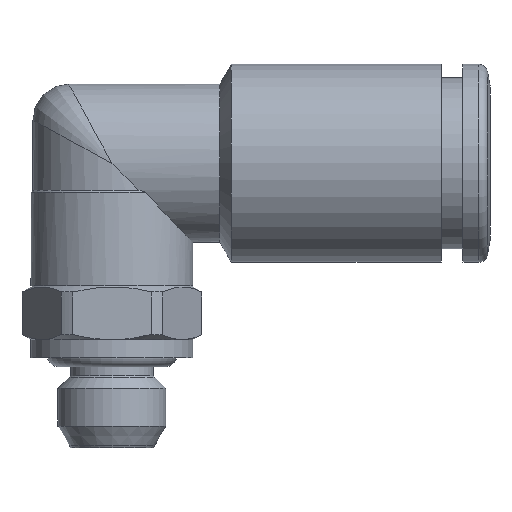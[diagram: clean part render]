
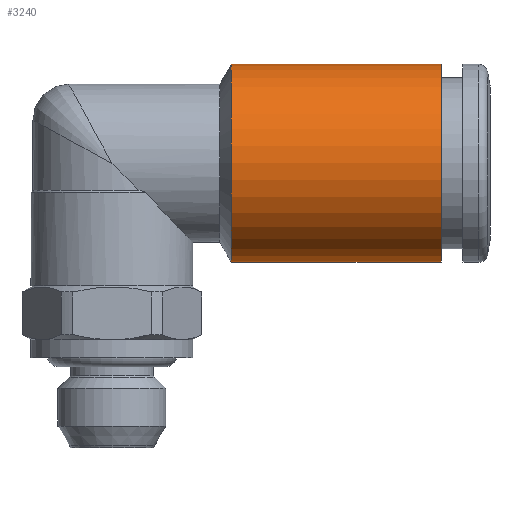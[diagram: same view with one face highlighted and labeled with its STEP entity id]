
A CAD part, front view. The second image highlights one B-rep face of the part: STEP entity #3240.
In plain terms, the highlighted cylindrical face has radius 5.5 mm (diameter 11 mm), a full revolution.
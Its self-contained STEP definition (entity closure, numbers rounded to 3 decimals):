
#3240=ADVANCED_FACE('', (#3250,#3260), #3270, .T.);
#9420=AXIS2_PLACEMENT_3D('Ax2Pl3d', #9430, #9440, #9450);
#10380=AXIS2_PLACEMENT_3D('Ax2Pl3d', #10390, #10400, #10410);
#10420=AXIS2_PLACEMENT_3D('Ax2Pl3d', #10430, #10440, #10450);
#9430=CARTESIAN_POINT('HicPkt', (27.713,10.529,
18.914));
#23530=CARTESIAN_POINT('', (27.713,10.529,24.414));
#10390=CARTESIAN_POINT('HicPkt', (16.048,10.529,
18.914));
#23670=CARTESIAN_POINT('', (16.048,10.529,24.414));
#10430=CARTESIAN_POINT('HicPkt', (16.048,10.529,
18.914));
#24400=CIRCLE('Circle', #9420, 5.5);
#24500=CIRCLE('Circle', #10380, 5.5);
#3270=CYLINDRICAL_SURFACE('Zyl', #10420, 5.5);
#9440=DIRECTION('Axis', (-1.,0.,0.))
;
#9450=DIRECTION('RefDirection', (0.,
0.,-1.));
#10400=DIRECTION('Axis', (-1.,0.,0.)
);
#10410=DIRECTION('RefDirection', (0.,
0.,-1.));
#10440=DIRECTION('Axis', (1.,0.,0.));
#10450=DIRECTION('RefDirection', (0.,0.,-1.));
#30290=EDGE_CURVE('', #30300, #30300, #24400, .T.);
#30670=EDGE_CURVE('', #30680, #30680, #24500, .T.);
#34560=EDGE_LOOP('Edge_loop', (#34570));
#34580=EDGE_LOOP('Edge_loop', (#34590));
#3260=FACE_BOUND('', #34580, .T.);
#3250=FACE_OUTER_BOUND('Face_outer_bound', #34560, .T.);
#34570=ORIENTED_EDGE('', *, *, #30290, .T.);
#34590=ORIENTED_EDGE('', *, *, #30670, .F.);
#30300=VERTEX_POINT('', #23530);
#30680=VERTEX_POINT('', #23670);
